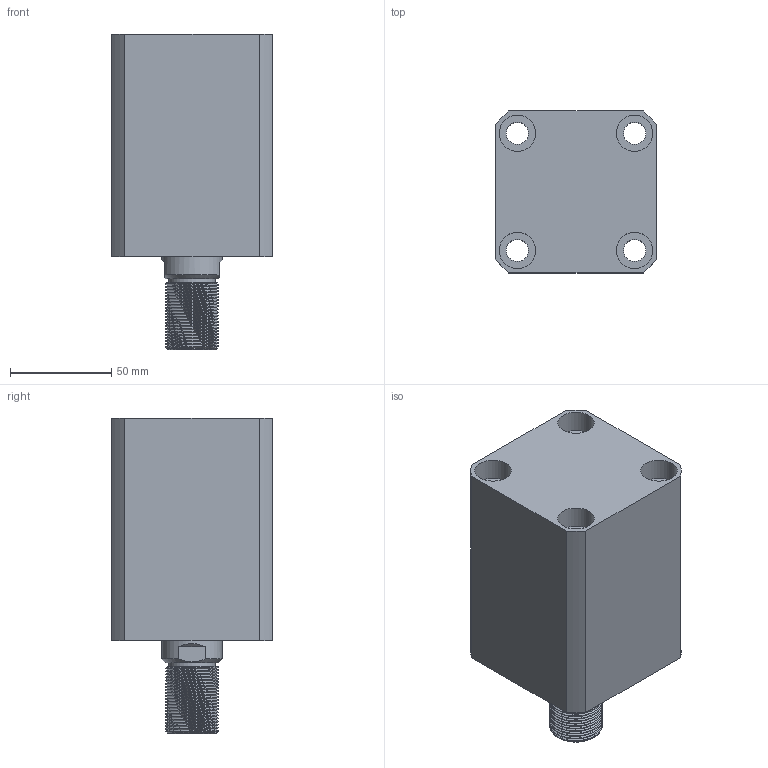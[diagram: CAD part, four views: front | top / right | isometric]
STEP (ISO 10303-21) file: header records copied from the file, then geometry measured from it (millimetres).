
FILE_DESCRIPTION(/* description */ (''),/* implementation_level */ '2;1');
FILE_NAME(/* name */ 'CHTB-SDMA50-50W.stp',/* time_stamp */ '2022-04-29T18:20:30+08:00',/* author */ (''),/* organization */ (''),/* preprocessor_version */ 'ST-DEVELOPER v16.7',/* originating_system */ 'SIEMENS PLM Software NX 12.0',/* authorisation */ '');
FILE_SCHEMA (('AUTOMOTIVE_DESIGN { 1 0 10303 214 3 1 1 1 }'));
Length unit declared in the file: millimetre
Products named in the file (1): CHTB-SDMA50-50W
Bounding box: 80 x 80 x 156 mm (x, y, z)
Volume: 594762.1 mm3; surface area: 117522.8 mm2
Topology: 5 solids, 5 shells, 511 faces, 1450 edges, 1003 vertices
Faces by surface type: plane 322, extrusion 88, cylinder 54, bspline 22, cone 14, torus 11
Full cylindrical faces by diameter (mm): 4 x6, 5 x2, 9 x2, 11 x4, 18 x8, 23 x1, 30 x2, 39 x1, 46 x1, 50 x5, 55 x8, 59 x1
Entity records: 29800 total; most frequent: CARTESIAN_POINT 15157, ORIENTED_EDGE 2742, DIRECTION 1961, EDGE_CURVE 1371, VERTEX_POINT 989, VECTOR 945, LINE 857, EDGE_LOOP 628
